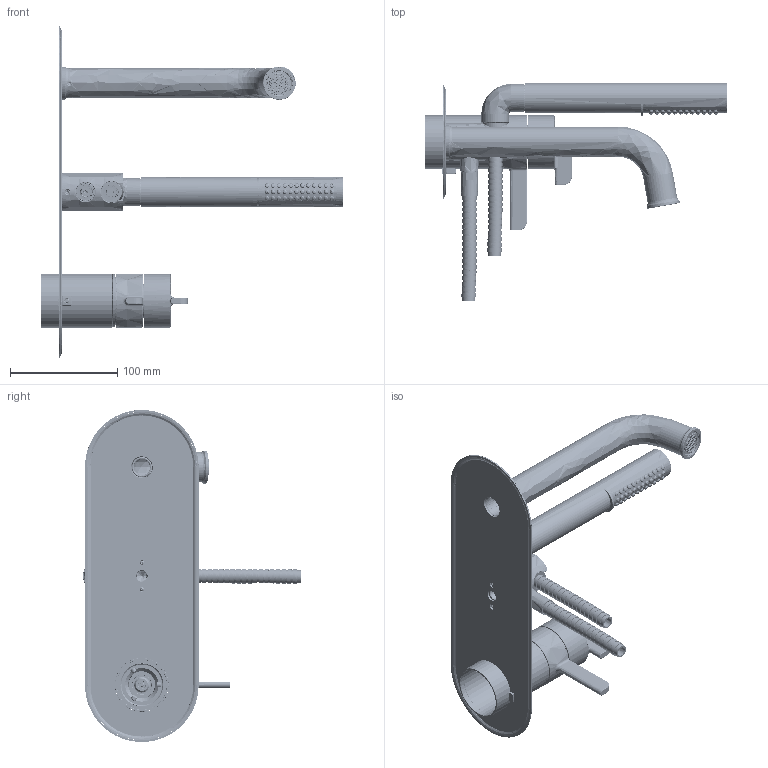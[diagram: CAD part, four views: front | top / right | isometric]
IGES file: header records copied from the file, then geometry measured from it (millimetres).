
Start section: SolidWorks IGES file using analytic representation for surfaces
Global section: file name: W:\mliu8\project\ADHOC-02291\sku_tau21series_igs\sku_tau21series_igs.IGS; native system: SolidWorks 2023; preprocessor: SolidWorks 2023; author: mliu8; date: 240726.140327; units: millimetre
Bounding box: 282.54 x 203.68 x 310 mm (x, y, z)
Surface area: 239051.5 mm2 (no closed solid volume)
Topology: 0 solids, 0 shells, 7101 faces, 69534 edges, 69458 vertices
Faces by surface type: bspline 5462, revolution 1639
